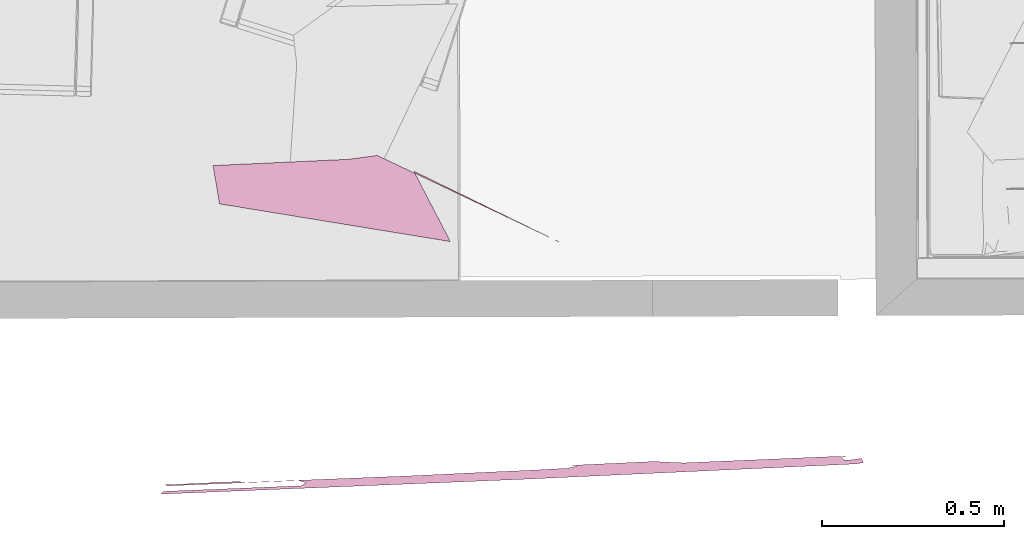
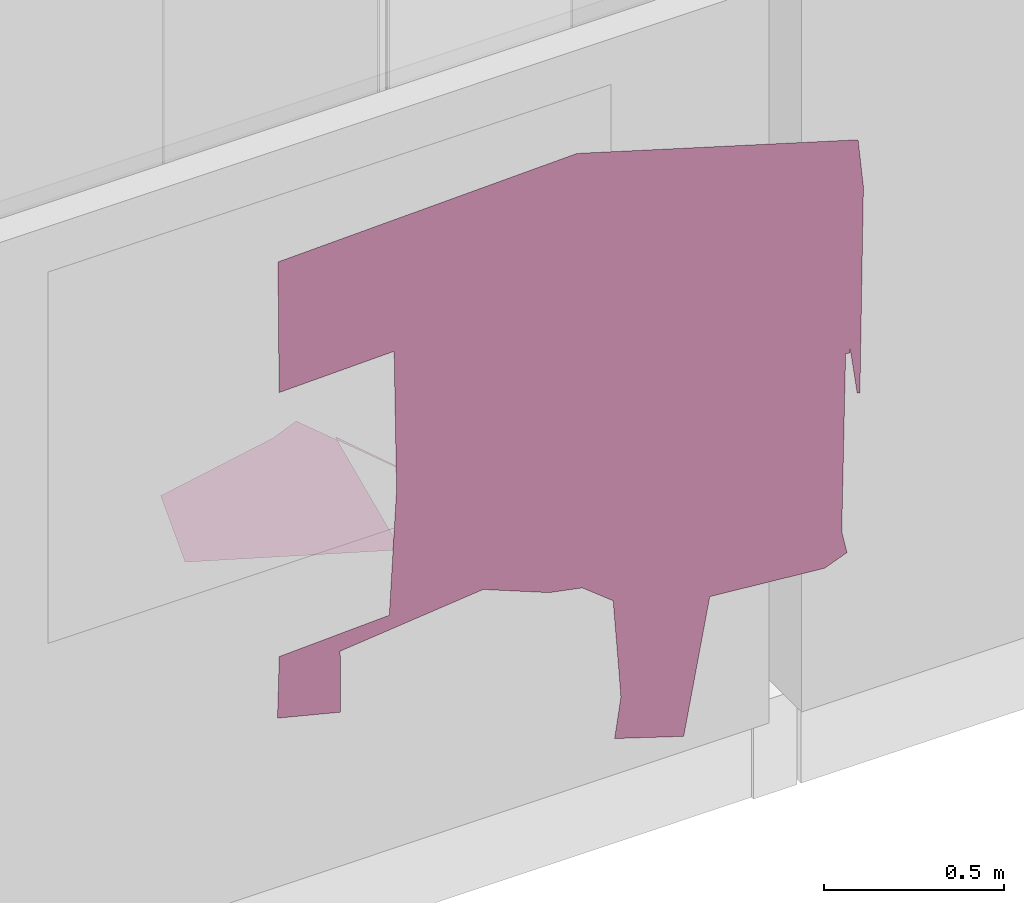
# One storey, part 6 of 15: 2 furniture elements.
"""IFC4 building model written with IfcOpenShell, lengths in metres."""

import ifcopenshell
import ifcopenshell.guid

model = None  # the IFC model being written
_history = None  # IfcOwnerHistory: only IFC2X3 demands one
_inside = {}  # id of a spatial element -> (the spatial element, [elements in it])
_under = {}  # id of a project, library or spatial element -> (it, [spatial elements below it])
_declared = {}  # id of a project -> (the project, [libraries it declares])
_typed = {}  # id of a type object -> (the type object, [elements of that type])
_made_of = {}  # id of a material, layer set ... -> (it, [elements and type objects made of it])


def new_model(schema):
    """Start an empty IFC model of exactly this schema.

    Asked for "IFC4X3", IfcOpenShell would pick the latest addendum, in which some entities
    have other attributes; the version numbers below select the first issue.
    IFC2X3 requires an IfcOwnerHistory on every rooted entity: one is made here for all.
    """
    global model, _history
    if schema == "IFC4X3":
        model = ifcopenshell.file(schema_version=(4, 3, 0, 0))
    else:
        model = ifcopenshell.file(schema=schema)
    _inside.clear()
    _under.clear()
    _declared.clear()
    _typed.clear()
    _made_of.clear()
    _history = None
    if model.schema == "IFC2X3":
        org = make("IfcOrganization", Name="unknown")
        user = make(
            "IfcPersonAndOrganization",
            ThePerson=make("IfcPerson", FamilyName="unknown"),
            TheOrganization=org,
        )
        app = make(
            "IfcApplication",
            ApplicationDeveloper=org,
            Version="unknown",
            ApplicationFullName="unknown",
            ApplicationIdentifier="unknown",
        )
        _history = make(
            "IfcOwnerHistory",
            OwningUser=user,
            OwningApplication=app,
            ChangeAction="ADDED",
            CreationDate=0,
        )
    return model


def make(cls, **values):
    """One entity of the class cls with the attributes given. An attribute that is None is left unset."""
    return model.create_entity(
        cls, **{name: value for name, value in values.items() if value is not None}
    )


def rooted(cls, **values):
    """An entity with a GlobalId (a new one), such as an element, a storey or a relation."""
    return make(cls, GlobalId=ifcopenshell.guid.new(), OwnerHistory=_history, **values)


def si_unit(unit_type, name, prefix=None):
    """IfcSIUnit, for example si_unit("LENGTHUNIT", "METRE", prefix="MILLI")."""
    return make("IfcSIUnit", UnitType=unit_type, Prefix=prefix, Name=name)


def assignment(units):
    """IfcUnitAssignment: the units of a project."""
    return None if units is None else make("IfcUnitAssignment", Units=units)


def point(xyz):
    """IfcCartesianPoint."""
    return None if xyz is None else make("IfcCartesianPoint", Coordinates=xyz)


def direction(xyz):
    """IfcDirection."""
    return None if xyz is None else make("IfcDirection", DirectionRatios=xyz)


def frame(location, z_axis=None, x_axis=None):
    """IfcAxis2Placement3D, a coordinate frame: its origin and axes. An axis left out is left unset."""
    return make(
        "IfcAxis2Placement3D",
        Location=point(location),
        Axis=direction(z_axis),
        RefDirection=direction(x_axis),
    )


def origin_with_axes():
    """The frame at (0, 0, 0) with the z axis (0, 0, 1) and the x axis (1, 0, 0) written out."""
    return frame((0.0, 0.0, 0.0), z_axis=(0.0, 0.0, 1.0), x_axis=(1.0, 0.0, 0.0))


def place(relative_to, where):
    """IfcLocalPlacement: puts the frame where relative to a parent placement (None: the world)."""
    return make(
        "IfcLocalPlacement", PlacementRelTo=relative_to, RelativePlacement=where
    )


def context(
    kind, dimensions, precision=None, world=None, true_north=None, identifier=None
):
    """IfcGeometricRepresentationContext, for example the 3D "Model" context."""
    return make(
        "IfcGeometricRepresentationContext",
        ContextIdentifier=identifier,
        ContextType=kind,
        CoordinateSpaceDimension=dimensions,
        Precision=precision,
        WorldCoordinateSystem=world,
        TrueNorth=true_north,
    )


def project(units=None, contexts=None):
    """IfcProject with its units and contexts."""
    return rooted(
        "IfcProject",
        Name="project",
        RepresentationContexts=contexts,
        UnitsInContext=assignment(units),
    )


def spatial(cls, under=None, at=None, **own):
    """A site, building, storey or space (cls), placed at a placement, below another one or the project."""
    s = rooted(cls, ObjectPlacement=at, **own)
    if under is not None:
        _under.setdefault(under.id(), (under, []))[1].append(s)
    return s


def point_list(points):
    """IfcCartesianPointList2D or 3D."""
    cls = (
        "IfcCartesianPointList2D" if len(points[0]) == 2 else "IfcCartesianPointList3D"
    )
    return make(cls, CoordList=points)


def polygons(points, faces, closed=None, point_numbers=None):
    """IfcPolygonalFaceSet: a face is its outer loop, then its inner loops; points numbered from 1."""
    made = []
    for loops in faces:
        if len(loops) == 1:
            made.append(make("IfcIndexedPolygonalFace", CoordIndex=loops[0]))
        else:
            made.append(
                make(
                    "IfcIndexedPolygonalFaceWithVoids",
                    CoordIndex=loops[0],
                    InnerCoordIndices=loops[1:],
                )
            )
    return make(
        "IfcPolygonalFaceSet",
        Coordinates=point_list(points),
        Closed=closed,
        Faces=made,
        PnIndex=point_numbers,
    )


def shape(context_of_items, identifier, shape_type, items):
    """IfcShapeRepresentation: the items that make up one representation, for example the "Body"."""
    return make(
        "IfcShapeRepresentation",
        ContextOfItems=context_of_items,
        RepresentationIdentifier=identifier,
        RepresentationType=shape_type,
        Items=items,
    )


def made_of(thing, what):
    """Note that an element or type object is made of a material, layer set ...; save() writes the relation."""
    if what is not None:
        _made_of.setdefault(what.id(), (what, []))[1].append(thing)
    return thing


def element(
    cls,
    number,
    at=None,
    inside=None,
    cuts=None,
    type_object=None,
    material=None,
    context=None,
    identifier="Body",
    shape_type=None,
    held_by="IfcProductDefinitionShape",
    body=None,
    shapes=None,
    **own,
):
    """One element of the class cls, such as IfcWall. Its Tag is "e" and its number.

    at: its placement. inside: the storey or other place that contains it. cuts: it is an
    opening in that element (IfcRelVoidsElement). A single representation is given by context,
    identifier, shape_type and body (its items); several are given by shapes. held_by: the class
    of the entity that holds the representations. save() writes the other relations.
    """
    e = rooted(cls, Tag="e%d" % number, ObjectPlacement=at, **own)
    if body is not None:
        shapes = [shape(context, identifier, shape_type, body)]
    if shapes is not None:
        e.Representation = make(held_by, Representations=shapes)
    if inside is not None:
        _inside.setdefault(inside.id(), (inside, []))[1].append(e)
    if cuts is not None:
        rooted(
            "IfcRelVoidsElement", RelatingBuildingElement=cuts, RelatedOpeningElement=e
        )
    if type_object is not None:
        _typed.setdefault(type_object.id(), (type_object, []))[1].append(e)
    return made_of(e, material)


def aggregate(whole, parts):
    """IfcRelAggregates: a whole, such as a stair, and the parts it consists of."""
    return rooted("IfcRelAggregates", RelatingObject=whole, RelatedObjects=parts)


def save(model, path):
    """Write the relations noted so far, then the file.

    IfcRelAggregates (storeys below a building ...), IfcRelContainedInSpatialStructure (elements
    in a storey), IfcRelDefinesByType, IfcRelAssociatesMaterial and IfcRelDeclares: one each for
    every whole, place, type object, material and project.
    """
    for whole, parts in _under.values():
        aggregate(whole, parts)
    for where, things in _inside.values():
        rooted(
            "IfcRelContainedInSpatialStructure",
            RelatedElements=things,
            RelatingStructure=where,
        )
    for kind, things in _typed.values():
        rooted("IfcRelDefinesByType", RelatedObjects=things, RelatingType=kind)
    for what, things in _made_of.values():
        rooted("IfcRelAssociatesMaterial", RelatedObjects=things, RelatingMaterial=what)
    for by, libraries in _declared.values():
        rooted("IfcRelDeclares", RelatingContext=by, RelatedDefinitions=libraries)
    model.write(path)


model = new_model("IFC4")

# Units and contexts
model_context = context("Model", 3, precision=1e-05, world=origin_with_axes(), true_north=direction((-0.077, 0.997, 0.0)))
ifc_project = project(units=[si_unit("AREAUNIT", "SQUARE_METRE"), si_unit("LENGTHUNIT", "METRE")], contexts=[model_context])

# Site, building, storey, space
site_placement = place(None, origin_with_axes())
site = spatial("IfcSite", under=ifc_project, at=site_placement, Name="Site", CompositionType="ELEMENT")
building_placement = place(site_placement, origin_with_axes())
building = spatial("IfcBuilding", under=site, at=building_placement, Name="Building", CompositionType="ELEMENT")
storey_placement = place(building_placement, frame((0.0, 0.0, 5.71135139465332), z_axis=(0.0, 0.0, 1.0), x_axis=(1.0, 0.0, 0.0)))
storey = spatial("IfcBuildingStorey", under=building, at=storey_placement, Name="Story 2", CompositionType="ELEMENT", Elevation=5.71135139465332)
space_placement = place(storey_placement, frame((4.05763642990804, -5.18838181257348, 0.0), z_axis=(0.0, 0.0, 1.0), x_axis=(1.0, 0.0, 0.0)))
space = spatial("IfcSpace", under=storey, at=space_placement, Name="015", CompositionType="ELEMENT")

# Furniture
furniture_1_placement = place(space_placement, frame((-1.80003542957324, 0.206630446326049, 0.953745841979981), z_axis=(-0.995138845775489, -0.0130977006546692, -0.0976070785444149), x_axis=(0.08970062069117, -0.529655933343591, -0.84345621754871)))
element("IfcFurniture", 1, at=furniture_1_placement, inside=space, Name="test1", PredefinedType="USERDEFINED", shapes=[
    shape(model_context, None, "Tessellation", [polygons([(8.88178419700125e-16, 4.44089209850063e-16, 4.44089209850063e-16), (0.210674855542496, -4.44089209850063e-16, -0.617824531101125), (-0.156000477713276, -8.88178419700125e-16, -0.550114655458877), (0.231707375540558, 4.44089209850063e-16, -0.928894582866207), (-0.23975746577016, 0.0, -0.457000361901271), (-0.221826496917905, -4.44089209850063e-16, -0.375046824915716), (-0.198877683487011, 4.44089209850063e-16, 1.28785870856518e-14), (-0.144630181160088, 0.0, -0.552214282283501)], [[[7, 6, 1]], [[1, 6, 2]], [[2, 6, 8]], [[8, 6, 5]], [[4, 8, 3]]])]),
])
furniture_2_placement = place(space_placement, frame((-1.9484110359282, -0.564199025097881, 0.943675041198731), z_axis=(0.999006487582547, 0.0410985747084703, -0.0172518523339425), x_axis=(-0.0178947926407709, 0.0153278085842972, -0.999722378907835)))
element("IfcFurniture", 2, at=furniture_2_placement, inside=space, Name="test2", PredefinedType="USERDEFINED", shapes=[
    shape(model_context, None, "Tessellation", [polygons([(-8.88178419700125e-16, 4.16333634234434e-16, 4.44089209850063e-16), (0.0544520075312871, -2.63677968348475e-16, 0.208474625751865), (-0.155606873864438, 4.16333634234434e-16, 0.202228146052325), (-0.197346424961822, -3.60822483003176e-16, 0.671462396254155), (-0.107548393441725, -4.85722573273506e-16, 0.892060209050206), (-0.0846784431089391, -4.02455846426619e-16, 1.00089297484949), (-0.00357433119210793, -4.44089209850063e-16, 1.10458631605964), (0.254011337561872, 3.05311331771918e-16, 1.13133572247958), (0.338103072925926, -7.63278329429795e-16, 1.13934701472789), (0.471795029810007, 4.71844785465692e-16, 1.12230849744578), (0.546860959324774, -5.82867087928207e-16, 1.3519407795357), (0.0972725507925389, 9.29811783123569e-16, 1.42538638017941), (0.136632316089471, -3.60822483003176e-16, 1.80417455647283), (0.109441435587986, -2.08166817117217e-16, 1.87735242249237), (0.0314359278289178, 1.04083408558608e-15, 1.85797563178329), (-0.575947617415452, -4.44089209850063e-16, 1.85398719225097), (-0.573275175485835, 5.96744875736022e-16, 1.86910730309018), (-0.596098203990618, 8.32667268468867e-17, 1.86733982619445), (-0.427288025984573, -3.19189119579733e-16, 1.89602322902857), (-0.424221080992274, 3.19189119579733e-16, 1.90519780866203), (-1.12913884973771, 5.82867087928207e-16, 1.8974573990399), (-1.2969068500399, 5.82867087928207e-16, 1.87538009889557), (-1.58505705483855, -1.38777878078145e-16, 0.942234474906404), (-1.568314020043, -3.60822483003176e-16, -0.0414862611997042), (-1.11765585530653, 6.38378239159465e-16, -0.0254298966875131), (-1.12245836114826, 1.2490009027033e-16, 0.353061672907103), (-0.642658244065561, -1.11022302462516e-16, 0.374228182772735), (-0.220804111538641, 9.57567358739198e-16, 0.361889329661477), (-0.210019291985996, 1.11022302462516e-16, 2.01638705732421e-12)], [[[29, 1, 3]], [[3, 1, 2]], [[29, 3, 28]], [[4, 28, 3]], [[24, 25, 26]], [[24, 26, 23]], [[5, 27, 4]], [[27, 5, 6]], [[27, 23, 26]], [[23, 27, 6]], [[23, 6, 16]], [[28, 4, 27]], [[6, 7, 16]], [[9, 10, 11]], [[8, 9, 12]], [[11, 12, 9]], [[12, 13, 15]], [[15, 13, 14]], [[12, 16, 7]], [[16, 18, 21]], [[18, 16, 17]], [[23, 21, 22]], [[18, 20, 21]], [[23, 16, 21]], [[19, 20, 18]], [[12, 15, 16]], [[8, 12, 7]]])]),
])

save(model, "model.ifc")
